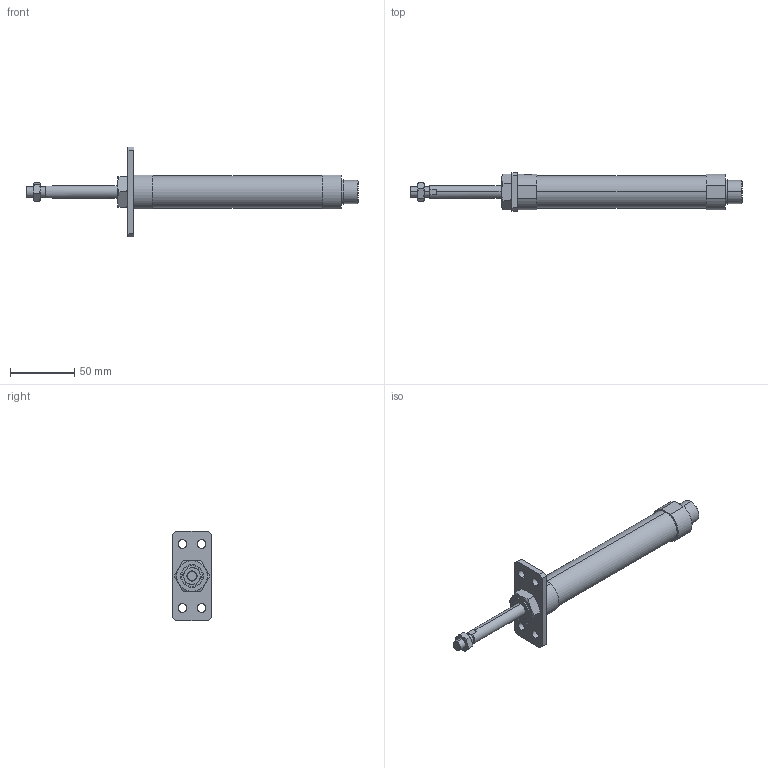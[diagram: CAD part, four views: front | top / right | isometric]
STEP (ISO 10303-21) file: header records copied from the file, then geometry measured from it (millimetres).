
FILE_DESCRIPTION (( 'STEP AP203' ), '1' );
FILE_NAME ('J#0-20-50-A.STEP', '2016-03-08T06:27:34', ( '' ), ( '' ), 'SwSTEP 2.0', 'SolidWorks 2014', '' );
FILE_SCHEMA (( 'CONFIG_CONTROL_DESIGN' ));
Length unit declared in the file: millimetre
Products named in the file (5): J#0-20-50; J#0-20-50-A; J#2-20-A
Assembly tree (4 placements, depth 2):
  J#0-20-50-A
    J#0-20-50
    (unnamed)
    (unnamed)
    J#2-20-A
Bounding box: 259 x 30 x 70 mm (x, y, z)
Volume: 104178.7 mm3; surface area: 25351.3 mm2
Topology: 4 solids, 4 shells, 109 faces, 246 edges, 154 vertices
Faces by surface type: plane 45, cylinder 34, torus 24, cone 6
Entity records: 3873 total; most frequent: CARTESIAN_POINT 906, DIRECTION 524, ORIENTED_EDGE 492, EDGE_CURVE 246, AXIS2_PLACEMENT_3D 216, VERTEX_POINT 154, EDGE_LOOP 132, FACE_OUTER_BOUND 109
